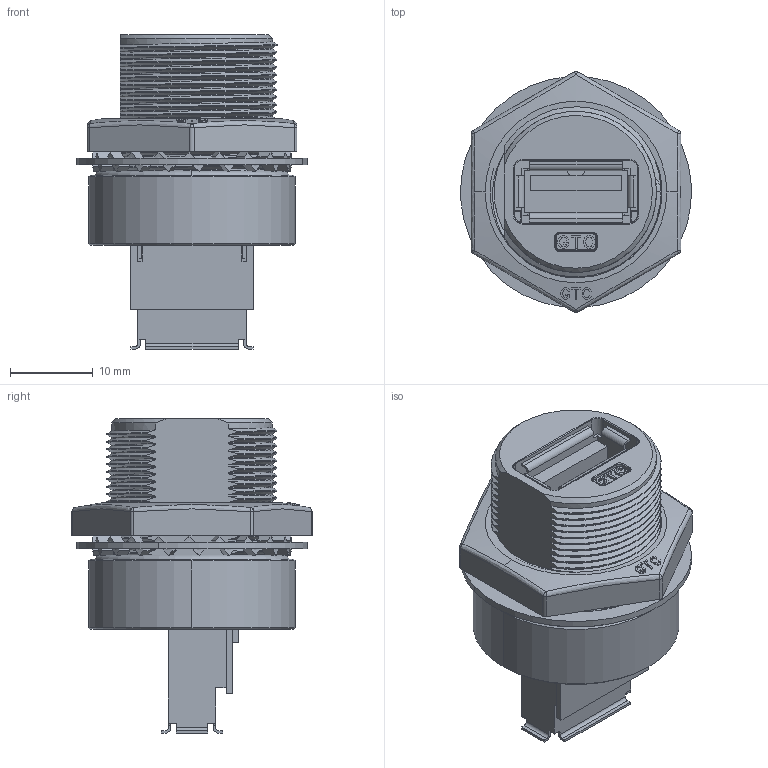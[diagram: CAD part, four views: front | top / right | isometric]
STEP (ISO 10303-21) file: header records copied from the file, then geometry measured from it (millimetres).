
FILE_DESCRIPTION (( 'STEP AP203' ), '1' );
FILE_NAME ('RR-218300-30.STEP', '2025-02-26T08:24:12', ( '' ), ( '' ), 'SwSTEP 2.0', 'SolidWorks 2019', '' );
FILE_SCHEMA (( 'CONFIG_CONTROL_DESIGN' ));
Length unit declared in the file: millimetre
Products named in the file (1): RR-218300-30
Bounding box: 27.95 x 29.17 x 38.06 mm (x, y, z)
Volume: 9399.3 mm3; surface area: 9390.3 mm2
Topology: 4 solids, 7 shells, 847 faces, 2262 edges, 1434 vertices
Faces by surface type: plane 479, cylinder 234, bspline 83, cone 21, sphere 15, torus 15
Entity records: 61702 total; most frequent: CARTESIAN_POINT 42631, ORIENTED_EDGE 4512, DIRECTION 3341, EDGE_CURVE 2256, VERTEX_POINT 1432, LINE 1151, VECTOR 1151, AXIS2_PLACEMENT_3D 1095
